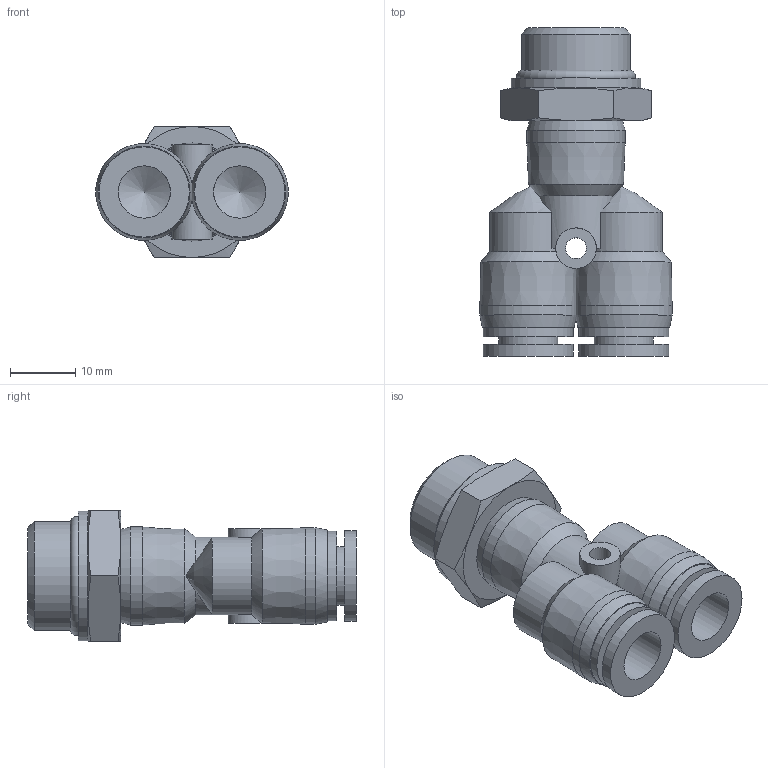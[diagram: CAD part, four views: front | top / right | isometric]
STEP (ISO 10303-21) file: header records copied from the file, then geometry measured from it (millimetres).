
FILE_DESCRIPTION(/* description */ (''),/* implementation_level */ '2;1');
FILE_NAME(/* name */ 'S:\_Tecnico\ArchivioUT\_Disegni3D ingombri\DISEGNI 3D per ingombri\RP\RP 74\RP743808.stp',/* time_stamp */ '2019-09-05T14:51:38+02:00',/* author */ ('ufficiotecnico3'),/* organization */ (''),/* preprocessor_version */ 'ST-DEVELOPER v18',/* originating_system */ 'Autodesk Inventor 2020',/* authorisation */ '');
FILE_SCHEMA (('AUTOMOTIVE_DESIGN { 1 0 10303 214 3 1 1 }'));
Length unit declared in the file: millimetre
Products named in the file (1): RP743808
Bounding box: 29.35 x 50.2 x 20 mm (x, y, z)
Volume: 8557.9 mm3; surface area: 6805.6 mm2
Topology: 1 solids, 1 shells, 74 faces, 211 edges, 141 vertices
Faces by surface type: cylinder 26, plane 24, cone 23, torus 1
Full cylindrical faces by diameter (mm): 3.2 x1, 5.871 x2, 6.2 x2, 8 x2, 8.8 x1, 9 x2, 11.4 x1, 13.7 x2, 13.8 x2, 14.7 x1, 15 x1, 16.662 x1, 19.8 x1
Entity records: 2850 total; most frequent: CARTESIAN_POINT 890, ORIENTED_EDGE 414, DIRECTION 403, EDGE_CURVE 207, AXIS2_PLACEMENT_3D 176, VERTEX_POINT 141, CIRCLE 99, EDGE_LOOP 88
